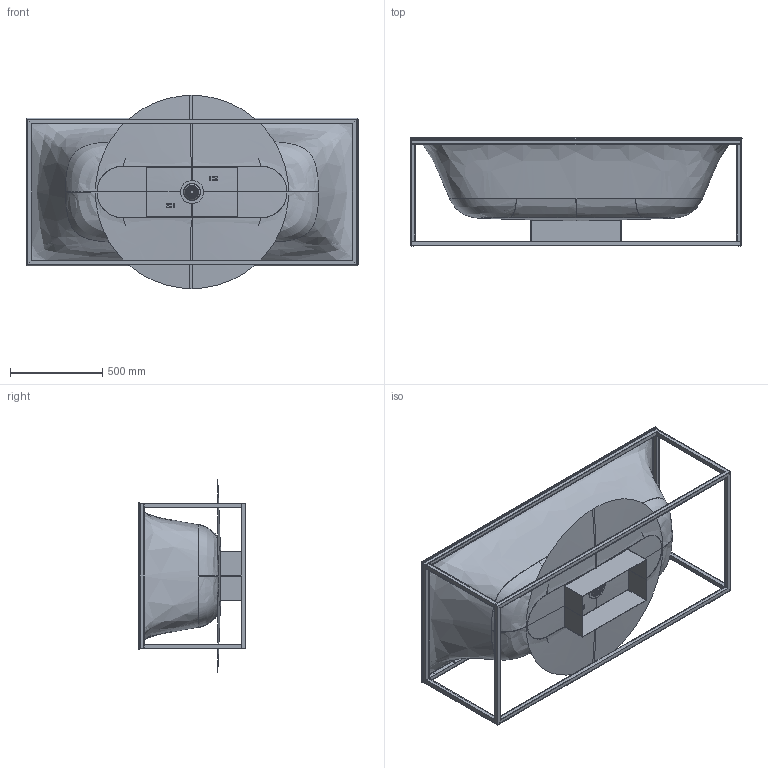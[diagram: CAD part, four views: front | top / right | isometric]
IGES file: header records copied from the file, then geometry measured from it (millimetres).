
Start section: Write IGES format                                    datakit 2008 (c)
Global section: file name: Unknown; native system: DATAKIT Converter; preprocessor: Unknown; author: Unknown; organization: Unknown; date: 950613.180003; units: millimetre
Bounding box: 1799 x 585 x 1047.37 mm (x, y, z)
Surface area: 6783190.9 mm2 (no closed solid volume)
Topology: 0 solids, 2 shells, 888 faces, 4775 edges, 4704 vertices
Faces by surface type: bspline 682, revolution 197, offset 9
